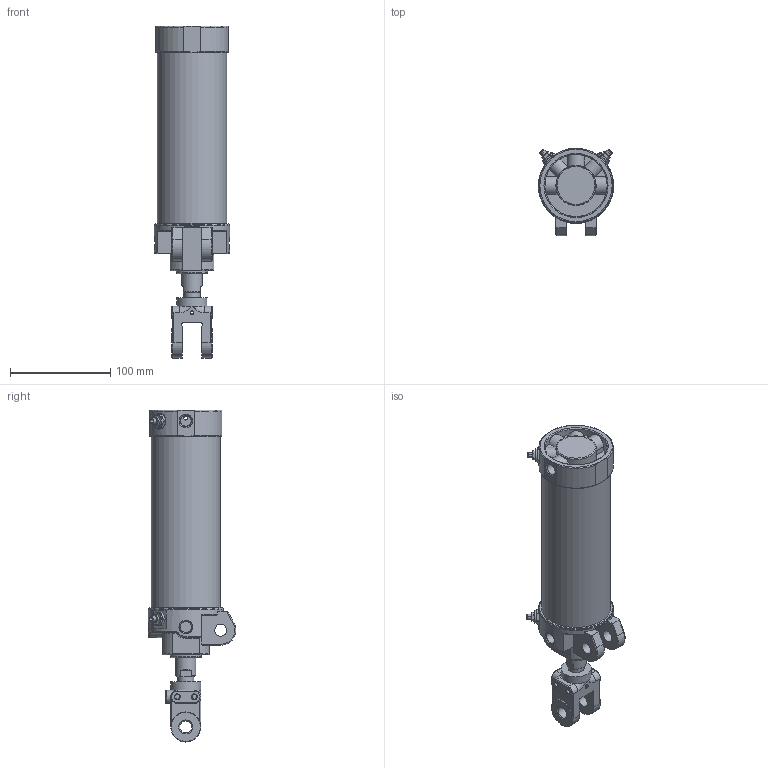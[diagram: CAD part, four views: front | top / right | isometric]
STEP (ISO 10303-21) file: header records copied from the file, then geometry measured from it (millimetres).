
FILE_DESCRIPTION((''),'2;1');
FILE_NAME('I:\3D電子目錄\氣缸\DCK\DCK\DCK-1B-63x125-Y.stp','2008-02-26T15:40:50',('Administrator'),(''),'Autodesk Inventor 11','Autodesk Inventor 11','');
FILE_SCHEMA(('AUTOMOTIVE_DESIGN { 1 0 10303 214 1 1 1 1 }'));
Length unit declared in the file: millimetre
Products named in the file (6): DCK-1B-63-Y; 緩衝針; 緩衝針-1; 緩衝針-201; 緩衝針-3
Assembly tree (8 placements, depth 3):
  DCK-1B-63-Y
    DCK-1B-63-Y
    緩衝針  x4
      緩衝針-1
      緩衝針-201
      緩衝針-3
Bounding box: 75 x 87.29 x 331 mm (x, y, z)
Volume: 386480.4 mm3; surface area: 156997.9 mm2
Topology: 16 solids, 16 shells, 672 faces, 1499 edges, 931 vertices
Faces by surface type: plane 246, cylinder 189, cone 143, torus 48, bspline 46
Full cylindrical faces by diameter (mm): 2 x1, 3 x2, 3.8 x2, 4 x6, 4.6 x4, 4.917 x2, 5 x8, 5.1 x4, 5.2 x12, 5.5 x4, 7 x1, 7.25 x1, 7.9 x4, 8 x2, 11.3 x3, 12 x4, 12.8 x4, 16 x3, 20 x1, 21 x1, 22 x2, 23 x1, 24.7 x1, 26 x1, 27 x1, 28 x1, 29 x1, 30 x3, 31 x1, 33 x1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
Entity records: 15178 total; most frequent: CARTESIAN_POINT 6245, DIRECTION 1812, ORIENTED_EDGE 1648, EDGE_CURVE 824, AXIS2_PLACEMENT_3D 775, EDGE_LOOP 630, VERTEX_POINT 590, FACE_OUTER_BOUND 423
